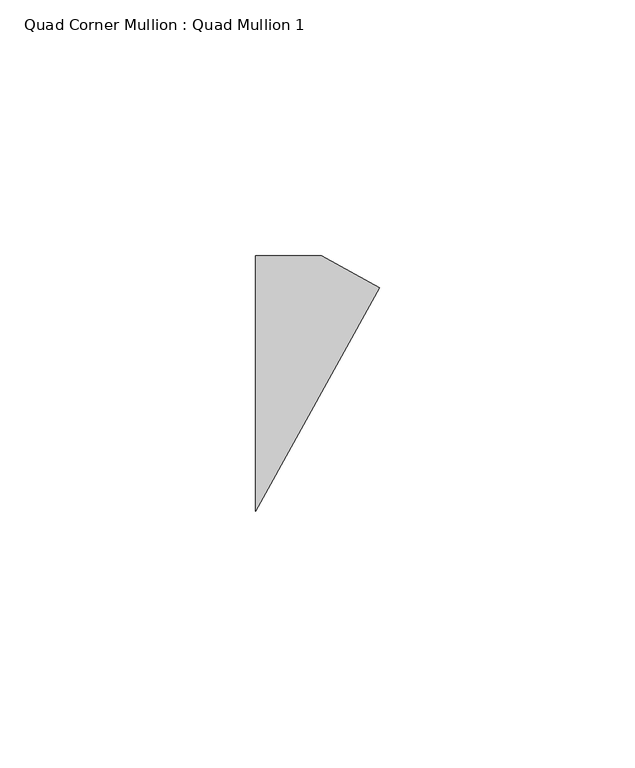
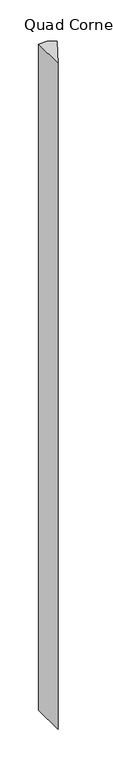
"""IFC4 building model written with IfcOpenShell, lengths in millimetres: member geometry, Quad Corner Mullion : Quad Mullion 1."""

from ifc_helpers import new_model, si_unit, frame, origin, place, context, project, spatial, polyline, outline, extrude, source, transform, mapped, element, save


def quad_corner_mullion_quad_mullion_1_60868192(model_context):
    return source(origin(), model_context, "Body", "SweptSolid", [
        extrude(outline(polyline([(17.7750414, 18.7309854), (-6.4654396, -25.0), (-6.4654396, 25.0), (6.4654396, 25.0), (17.7750414, 18.7309854)])), frame((0.0, 0.0, -1050.0), z_axis=(0.0, 0.0, 1.0), x_axis=(1.0, 0.0, 0.0)), (0.0, 0.0, 1.0), 1050.0),
    ])


if __name__ == "__main__":
    model = new_model("IFC4")
    model_context = context("Model", 3, world=origin())
    ifc_project = project(units=[si_unit("LENGTHUNIT", "METRE", prefix="MILLI")], contexts=[model_context])
    site = spatial("IfcSite", under=ifc_project)
    building = spatial("IfcBuilding", under=site)
    placement = place(None, origin())
    quad_corner_mullion_quad_mullion_1_shape = quad_corner_mullion_quad_mullion_1_60868192(model_context)
    element("IfcMember", 1, ObjectType="Quad Corner Mullion : Quad Mullion 1", at=placement, inside=building, context=model_context, shape_type="MappedRepresentation", body=[
        mapped(quad_corner_mullion_quad_mullion_1_shape, transform((0.0, 0.0, 0.0), x_axis=(1.0, 0.0, 0.0), y_axis=(0.0, 1.0, 0.0), z_axis=(0.0, 0.0, 1.0))),
    ])
    save(model, "model.ifc")
